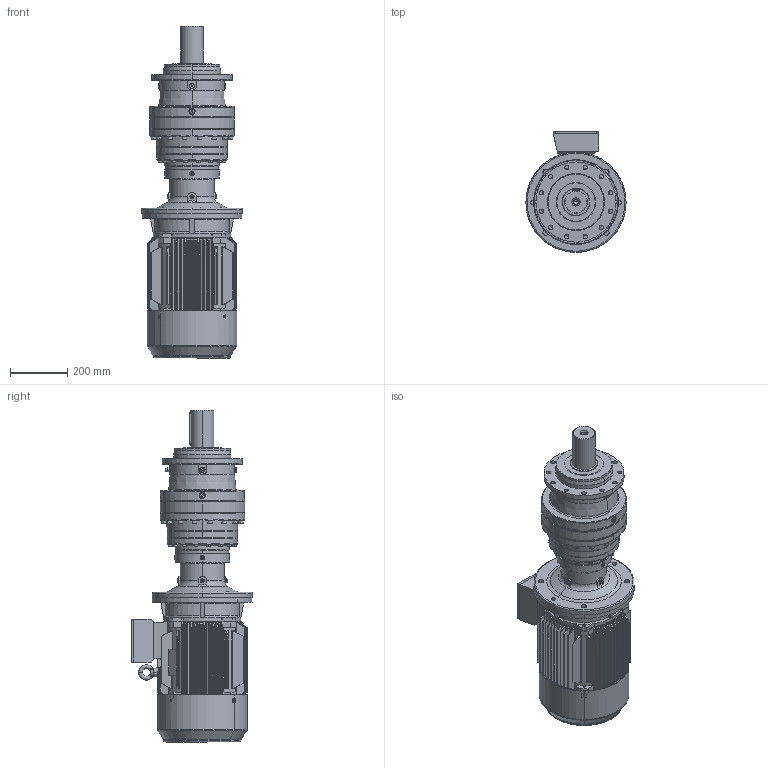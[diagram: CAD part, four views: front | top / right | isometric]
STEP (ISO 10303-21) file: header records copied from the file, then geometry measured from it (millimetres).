
FILE_DESCRIPTION (( 'STEP AP203' ), '1' );
FILE_NAME ('PVL-1903L-HS160M-4.STEP', '2019-05-27T08:10:40', ( '' ), ( '' ), 'SwSTEP 2.0', 'SolidWorks 2012', '' );
FILE_SCHEMA (( 'CONFIG_CONTROL_DESIGN' ));
Products named in the file (18): PVL-1903L-HS160M-4; M3-HS160M-FF-B5; Y2-160_shaft; Y2-160M+À+¿(B5)_-++ñ; +ª+§ªiY2-160ñ»ª­_-++ñ; M3-160M-FF-B5; Y2-160ñ»ª­+¿_-++ñ; Y2-160-2ª¥--®+_-++ñ; +¦i-MN2-160_-++ñ; Y2-160-180ñ»ª­®+_-++ñ; Eyebolts GB_GB_FASTENER_SCREWS_FRS M12; PNL_1903L_0_0_A16_B5_ML25A_FL5A_0_0_0_0_0_0_0_0_0_0_0_M1; Y2-160-4Ý¾6Ý¾8-ª+---®+_-++ñ; ML25A_Varsayìlan; EK1903L_Varsayìlan; 11160B5_Varsayìlan; FL5A_Varsayìlan; P19_Varsayìlan
Assembly tree (17 placements, depth 5):
  PVL-1903L-HS160M-4
    PNL_1903L_0_0_A16_B5_ML25A_FL5A_0_0_0_0_0_0_0_0_0_0_0_M1
      P19_Varsayìlan
      11160B5_Varsayìlan
      ML25A_Varsayìlan
      EK1903L_Varsayìlan
      FL5A_Varsayìlan
    M3-HS160M-FF-B5
      M3-160M-FF-B5
        Eyebolts GB_GB_FASTENER_SCREWS_FRS M12
        Y2-160-4Ý¾6Ý¾8-ª+---®+_-++ñ
        +¦i-MN2-160_-++ñ
        Y2-160-2ª¥--®+_-++ñ
        +ª+§ªiY2-160ñ»ª­_-++ñ
          Y2-160-180ñ»ª­®+_-++ñ
          Y2-160ñ»ª­+¿_-++ñ
        Y2-160M+À+¿(B5)_-++ñ
        Y2-160_shaft
Bounding box: 350 x 422 x 1159.1 mm (x, y, z)
Volume: 27208510.6 mm3; surface area: 3393195.6 mm2
Topology: 16 solids, 29 shells, 3454 faces, 9106 edges, 5804 vertices
Faces by surface type: plane 1393, cylinder 1297, bspline 394, cone 249, torus 81, sphere 40
Full cylindrical faces by diameter (mm): 8.566 x1
Entity records: 156802 total; most frequent: CARTESIAN_POINT 73057, ORIENTED_EDGE 17974, DIRECTION 16057, EDGE_CURVE 8995, AXIS2_PLACEMENT_3D 6161, VERTEX_POINT 5790, EDGE_LOOP 3862, LINE 3735
